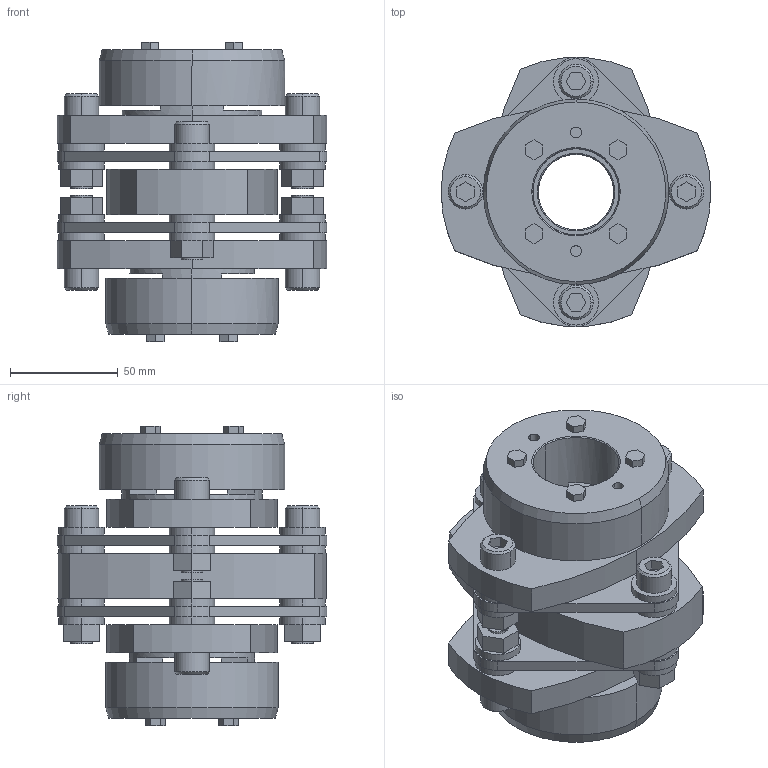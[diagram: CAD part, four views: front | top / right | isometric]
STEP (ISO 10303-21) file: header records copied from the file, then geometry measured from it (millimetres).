
FILE_DESCRIPTION((''),'2;1');
FILE_NAME('LCD-125T7-35×40.stp','2011-09-07T10:17:05',(''),(''),'AutoCAD STEP 2000i','AutoCAD 2000i',', , ');
FILE_SCHEMA(('CONFIG_CONTROL_DESIGN'));
Length unit declared in the file: millimetre
Products named in the file (9): LCD-125T7-35×40; 忣兜1; LC125T7-T040; LC125T7-T038; LC125T7-T035-1; LC125T7-T035; LC125T7-T032-1; LC125T7-T032; LCD125-ITA
Assembly tree (8 placements, depth 2):
  LCD-125T7-35×40
    忣兜1
    LC125T7-T040
    LC125T7-T038
    LC125T7-T035-1
    LC125T7-T035
    LC125T7-T032-1
    LC125T7-T032
    LCD125-ITA
Bounding box: 125 x 124.91 x 139 mm (x, y, z)
Volume: 669567.1 mm3; surface area: 138952.5 mm2
Topology: 1 solids, 1 shells, 334 faces, 818 edges, 538 vertices
Faces by surface type: plane 190, cylinder 120, cone 24
Entity records: 10127 total; most frequent: DIRECTION 1786, CARTESIAN_POINT 1699, ORIENTED_EDGE 1636, EDGE_CURVE 818, AXIS2_PLACEMENT_3D 625, VERTEX_POINT 538, VECTOR 536, LINE 536
